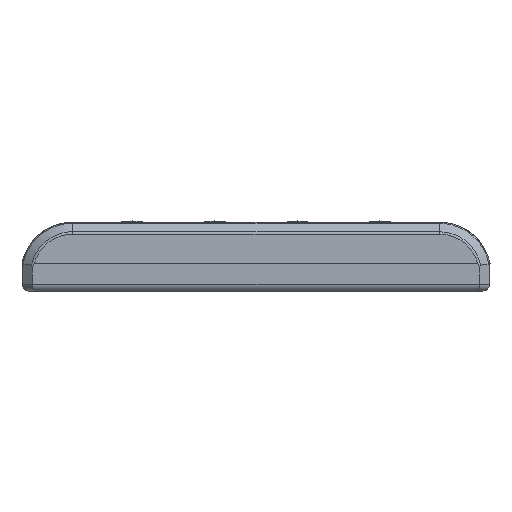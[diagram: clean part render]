
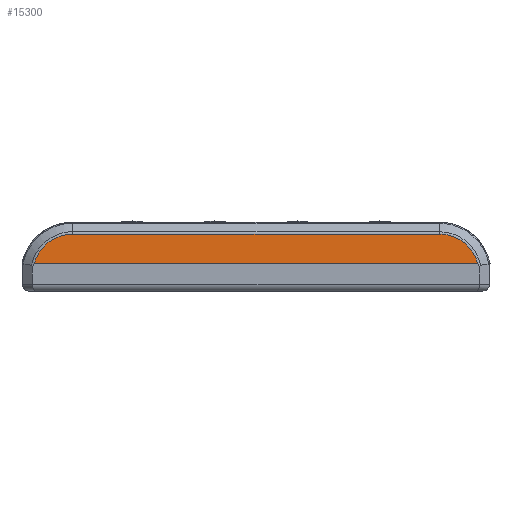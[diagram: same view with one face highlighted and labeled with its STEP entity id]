
A CAD part, front view. The second image highlights one B-rep face of the part: STEP entity #15300.
In plain terms, the highlighted planar face has unit normal (0, -1, 0.018).
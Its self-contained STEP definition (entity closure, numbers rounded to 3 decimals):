
#3796 = EDGE_CURVE ( 'NONE', #13684, #31045, #16630, .T. ) ;
#3800 = EDGE_CURVE ( 'NONE', #31063, #13684, #17737, .T. ) ;
#3802 = EDGE_CURVE ( 'NONE', #31135, #31063, #16639, .T. ) ;
#3803 = EDGE_CURVE ( 'NONE', #31045, #31135, #17738, .T. ) ;
#5001 = ORIENTED_EDGE ( 'NONE', *, *, #3802, .T. ) ;
#5002 = ORIENTED_EDGE ( 'NONE', *, *, #3800, .T. ) ;
#5003 = ORIENTED_EDGE ( 'NONE', *, *, #3796, .T. ) ;
#5004 = ORIENTED_EDGE ( 'NONE', *, *, #3803, .T. ) ;
#11722 = CARTESIAN_POINT ( 'NONE',  ( -53.303, -39.85, 8.566 ) ) ;
#11740 = CARTESIAN_POINT ( 'NONE',  ( 64.429, -40., 0. ) ) ;
#11812 = CARTESIAN_POINT ( 'NONE',  ( -64.429, -40., 0. ) ) ;
#12968 = AXIS2_PLACEMENT_3D ( 'NONE', #28393, #28404, #28406 ) ;
#13684 = VERTEX_POINT ( 'NONE', #24124 ) ;
#15300 = ADVANCED_FACE ( 'NONE', ( #16968 ), #28397, .T. ) ;
#16625 = VECTOR ( 'NONE', #23970, 1000. ) ;
#16630 = LINE ( 'NONE', #23959, #16625 ) ;
#16639 = LINE ( 'NONE', #23977, #16640 ) ;
#16640 = VECTOR ( 'NONE', #23997, 1000. ) ;
#16968 = FACE_OUTER_BOUND ( 'NONE', #31860, .T. ) ;
#17737 = B_SPLINE_CURVE_WITH_KNOTS ( 'NONE', 3,
 ( #23974, #23978, #23979, #23980, #23981, #23982, #23983, #23984, #23985, #23986, #23987, #23988, #23989, #23990, #23991, #23992, #23993, #23994, #23995, #23996 ),
 .UNSPECIFIED., .F., .F.,
 ( 4, 2, 2, 2, 2, 2, 2, 2, 2, 4 ),
 ( 0., 0.002, 0.003, 0.004, 0.006, 0.008, 0.009, 0.011, 0.013, 0.015 ),
 .UNSPECIFIED. ) ;
#17738 = B_SPLINE_CURVE_WITH_KNOTS ( 'NONE', 3,
 ( #23976, #23998, #23999, #24000, #24001, #24002, #24003, #24004, #24005, #24006, #24007, #24008, #24009, #24010, #24011, #24012, #24013, #24014, #24015, #24016 ),
 .UNSPECIFIED., .F., .F.,
 ( 4, 2, 2, 2, 2, 2, 2, 2, 2, 4 ),
 ( 0., 0.002, 0.004, 0.006, 0.008, 0.009, 0.011, 0.012, 0.013, 0.015 ),
 .UNSPECIFIED. ) ;
#23959 = CARTESIAN_POINT ( 'NONE',  ( -53.303, -39.85, 8.566 ) ) ;
#23970 = DIRECTION ( 'NONE',  ( -1., 0., 0. ) ) ;
#23974 = CARTESIAN_POINT ( 'NONE',  ( 64.429, -40., 0. ) ) ;
#23976 = CARTESIAN_POINT ( 'NONE',  ( -53.303, -39.85, 8.566 ) ) ;
#23977 = CARTESIAN_POINT ( 'NONE',  ( -68., -40., 0. ) ) ;
#23978 = CARTESIAN_POINT ( 'NONE',  ( 64.266, -39.989, 0.613 ) ) ;
#23979 = CARTESIAN_POINT ( 'NONE',  ( 64.053, -39.979, 1.205 ) ) ;
#23980 = CARTESIAN_POINT ( 'NONE',  ( 63.666, -39.964, 2.062 ) ) ;
#23981 = CARTESIAN_POINT ( 'NONE',  ( 63.525, -39.959, 2.343 ) ) ;
#23982 = CARTESIAN_POINT ( 'NONE',  ( 63.221, -39.949, 2.894 ) ) ;
#23983 = CARTESIAN_POINT ( 'NONE',  ( 63.056, -39.945, 3.165 ) ) ;
#23984 = CARTESIAN_POINT ( 'NONE',  ( 62.531, -39.931, 3.956 ) ) ;
#23985 = CARTESIAN_POINT ( 'NONE',  ( 62.143, -39.922, 4.448 ) ) ;
#23986 = CARTESIAN_POINT ( 'NONE',  ( 61.292, -39.906, 5.365 ) ) ;
#23987 = CARTESIAN_POINT ( 'NONE',  ( 60.827, -39.899, 5.789 ) ) ;
#23988 = CARTESIAN_POINT ( 'NONE',  ( 59.821, -39.885, 6.561 ) ) ;
#23989 = CARTESIAN_POINT ( 'NONE',  ( 59.292, -39.88, 6.901 ) ) ;
#23990 = CARTESIAN_POINT ( 'NONE',  ( 58.188, -39.869, 7.491 ) ) ;
#23991 = CARTESIAN_POINT ( 'NONE',  ( 57.612, -39.865, 7.742 ) ) ;
#23992 = CARTESIAN_POINT ( 'NONE',  ( 56.411, -39.858, 8.153 ) ) ;
#23993 = CARTESIAN_POINT ( 'NONE',  ( 55.801, -39.855, 8.307 ) ) ;
#23994 = CARTESIAN_POINT ( 'NONE',  ( 54.566, -39.851, 8.515 ) ) ;
#23995 = CARTESIAN_POINT ( 'NONE',  ( 53.94, -39.85, 8.568 ) ) ;
#23996 = CARTESIAN_POINT ( 'NONE',  ( 53.305, -39.85, 8.566 ) ) ;
#23997 = DIRECTION ( 'NONE',  ( 1., 0., 0. ) ) ;
#23998 = CARTESIAN_POINT ( 'NONE',  ( -53.938, -39.85, 8.568 ) ) ;
#23999 = CARTESIAN_POINT ( 'NONE',  ( -54.564, -39.851, 8.515 ) ) ;
#24000 = CARTESIAN_POINT ( 'NONE',  ( -55.799, -39.855, 8.308 ) ) ;
#24001 = CARTESIAN_POINT ( 'NONE',  ( -56.408, -39.858, 8.154 ) ) ;
#24002 = CARTESIAN_POINT ( 'NONE',  ( -57.608, -39.865, 7.744 ) ) ;
#24003 = CARTESIAN_POINT ( 'NONE',  ( -58.185, -39.869, 7.492 ) ) ;
#24004 = CARTESIAN_POINT ( 'NONE',  ( -59.291, -39.88, 6.901 ) ) ;
#24005 = CARTESIAN_POINT ( 'NONE',  ( -59.82, -39.885, 6.562 ) ) ;
#24006 = CARTESIAN_POINT ( 'NONE',  ( -60.826, -39.899, 5.789 ) ) ;
#24007 = CARTESIAN_POINT ( 'NONE',  ( -61.291, -39.906, 5.365 ) ) ;
#24008 = CARTESIAN_POINT ( 'NONE',  ( -62.142, -39.922, 4.449 ) ) ;
#24009 = CARTESIAN_POINT ( 'NONE',  ( -62.531, -39.931, 3.956 ) ) ;
#24010 = CARTESIAN_POINT ( 'NONE',  ( -63.056, -39.945, 3.165 ) ) ;
#24011 = CARTESIAN_POINT ( 'NONE',  ( -63.22, -39.949, 2.894 ) ) ;
#24012 = CARTESIAN_POINT ( 'NONE',  ( -63.525, -39.959, 2.343 ) ) ;
#24013 = CARTESIAN_POINT ( 'NONE',  ( -63.666, -39.964, 2.062 ) ) ;
#24014 = CARTESIAN_POINT ( 'NONE',  ( -64.053, -39.979, 1.205 ) ) ;
#24015 = CARTESIAN_POINT ( 'NONE',  ( -64.266, -39.989, 0.613 ) ) ;
#24016 = CARTESIAN_POINT ( 'NONE',  ( -64.429, -40., 0. ) ) ;
#24124 = CARTESIAN_POINT ( 'NONE',  ( 53.305, -39.85, 8.566 ) ) ;
#28393 = CARTESIAN_POINT ( 'NONE',  ( -68., -40., 0. ) ) ;
#28397 = PLANE ( 'NONE',  #12968 ) ;
#28404 = DIRECTION ( 'NONE',  ( 0., -1., 0.017 ) ) ;
#28406 = DIRECTION ( 'NONE',  ( 0., -0.017, -1. ) ) ;
#31045 = VERTEX_POINT ( 'NONE', #11722 ) ;
#31063 = VERTEX_POINT ( 'NONE', #11740 ) ;
#31135 = VERTEX_POINT ( 'NONE', #11812 ) ;
#31860 = EDGE_LOOP ( 'NONE', ( #5001, #5002, #5003, #5004 ) ) ;
